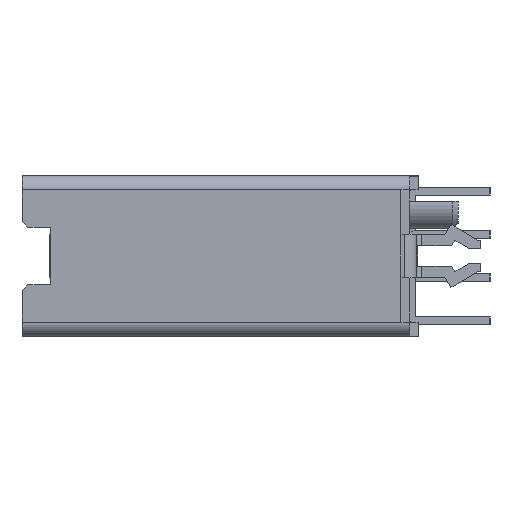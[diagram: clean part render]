
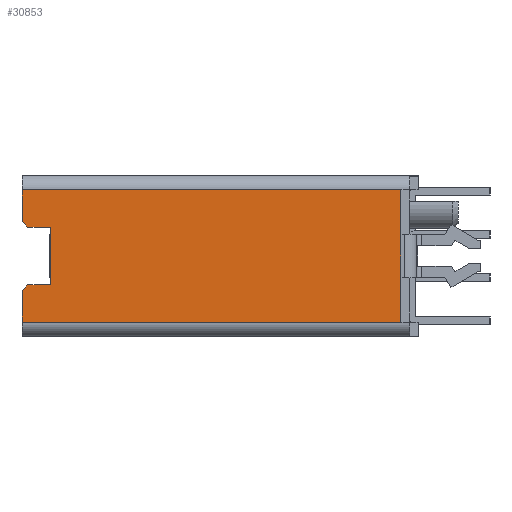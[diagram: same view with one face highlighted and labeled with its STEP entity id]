
A CAD part, left-side view. The second image highlights one B-rep face of the part: STEP entity #30853.
In plain terms, the highlighted planar face has unit normal (-1, 0, 0).
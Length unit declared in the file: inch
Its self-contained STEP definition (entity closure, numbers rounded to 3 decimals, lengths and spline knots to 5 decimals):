
#1=DIRECTION('',(0.,0.,1.));
#2=VECTOR('',#1,0.23);
#3=CARTESIAN_POINT('',(-1.3585,0.03,-0.115));
#4=LINE('',#3,#2);
#5=DIRECTION('',(0.,0.,1.));
#6=VECTOR('',#5,0.055);
#7=CARTESIAN_POINT('',(-1.3585,0.689,-0.115));
#8=LINE('',#7,#6);
#9=DIRECTION('',(0.,-1.,0.));
#10=VECTOR('',#9,0.04);
#11=CARTESIAN_POINT('',(-1.3585,0.679,-0.05));
#12=LINE('',#11,#10);
#13=DIRECTION('',(0.,0.,1.));
#14=VECTOR('',#13,0.1);
#15=CARTESIAN_POINT('',(-1.3585,0.639,-0.05));
#16=LINE('',#15,#14);
#17=DIRECTION('',(0.,1.,0.));
#18=VECTOR('',#17,0.04);
#19=CARTESIAN_POINT('',(-1.3585,0.639,0.05));
#20=LINE('',#19,#18);
#21=DIRECTION('',(0.,0.,1.));
#22=VECTOR('',#21,0.055);
#23=CARTESIAN_POINT('',(-1.3585,0.689,0.06));
#24=LINE('',#23,#22);
#25=DIRECTION('',(0.,1.,0.));
#26=VECTOR('',#25,0.659);
#27=CARTESIAN_POINT('',(-1.3585,0.03,0.115));
#28=LINE('',#27,#26);
#22784=DIRECTION('',(0.,-1.,0.));
#22785=VECTOR('',#22784,0.659);
#22786=CARTESIAN_POINT('',(-1.3585,0.689,-0.115));
#22787=LINE('',#22786,#22785);
#22878=DIRECTION('',(0.,-0.707,-0.707));
#22879=VECTOR('',#22878,0.01414);
#22880=CARTESIAN_POINT('',(-1.3585,0.689,0.06));
#22881=LINE('',#22880,#22879);
#23054=DIRECTION('',(0.,0.707,-0.707));
#23055=VECTOR('',#23054,0.01414);
#23056=CARTESIAN_POINT('',(-1.3585,0.679,-0.05));
#23057=LINE('',#23056,#23055);
#23442=CARTESIAN_POINT('',(-1.3585,0.639,-0.05));
#23443=CARTESIAN_POINT('',(-1.3585,0.639,0.05));
#23444=VERTEX_POINT('',#23442);
#23445=VERTEX_POINT('',#23443);
#23630=CARTESIAN_POINT('',(-1.3585,0.689,0.06));
#23631=VERTEX_POINT('',#23630);
#23632=CARTESIAN_POINT('',(-1.3585,0.679,0.05));
#23633=VERTEX_POINT('',#23632);
#23634=CARTESIAN_POINT('',(-1.3585,0.679,-0.05));
#23636=VERTEX_POINT('',#23634);
#23638=CARTESIAN_POINT('',(-1.3585,0.689,-0.06));
#23640=VERTEX_POINT('',#23638);
#23710=CARTESIAN_POINT('',(-1.3585,0.03,0.115));
#23711=CARTESIAN_POINT('',(-1.3585,0.689,0.115));
#23712=VERTEX_POINT('',#23710);
#23713=VERTEX_POINT('',#23711);
#23720=CARTESIAN_POINT('',(-1.3585,0.689,-0.115));
#23721=CARTESIAN_POINT('',(-1.3585,0.03,-0.115));
#23722=VERTEX_POINT('',#23720);
#23723=VERTEX_POINT('',#23721);
#30826=CARTESIAN_POINT('',(-1.3585,0.,0.));
#30827=DIRECTION('',(1.,0.,0.));
#30828=DIRECTION('',(0.,0.,-1.));
#30829=AXIS2_PLACEMENT_3D('',#30826,#30827,#30828);
#30830=PLANE('',#30829);
#30832=ORIENTED_EDGE('',*,*,#30831,.F.);
#30834=ORIENTED_EDGE('',*,*,#30833,.F.);
#30836=ORIENTED_EDGE('',*,*,#30835,.F.);
#30838=ORIENTED_EDGE('',*,*,#30837,.T.);
#30840=ORIENTED_EDGE('',*,*,#30839,.F.);
#30842=ORIENTED_EDGE('',*,*,#30841,.T.);
#30844=ORIENTED_EDGE('',*,*,#30843,.T.);
#30846=ORIENTED_EDGE('',*,*,#30845,.T.);
#30848=ORIENTED_EDGE('',*,*,#30847,.F.);
#30850=ORIENTED_EDGE('',*,*,#30849,.T.);
#30851=EDGE_LOOP('',(#30832,#30834,#30836,#30838,#30840,#30842,#30844,#30846,
#30848,#30850));
#30852=FACE_OUTER_BOUND('',#30851,.F.);
#30853=ADVANCED_FACE('',(#30852),#30830,.F.);
#30831=EDGE_CURVE('',#23712,#23713,#28,.T.);
#30833=EDGE_CURVE('',#23723,#23712,#4,.T.);
#30835=EDGE_CURVE('',#23722,#23723,#22787,.T.);
#30837=EDGE_CURVE('',#23722,#23640,#8,.T.);
#30839=EDGE_CURVE('',#23636,#23640,#23057,.T.);
#30841=EDGE_CURVE('',#23636,#23444,#12,.T.);
#30843=EDGE_CURVE('',#23444,#23445,#16,.T.);
#30845=EDGE_CURVE('',#23445,#23633,#20,.T.);
#30847=EDGE_CURVE('',#23631,#23633,#22881,.T.);
#30849=EDGE_CURVE('',#23631,#23713,#24,.T.);
